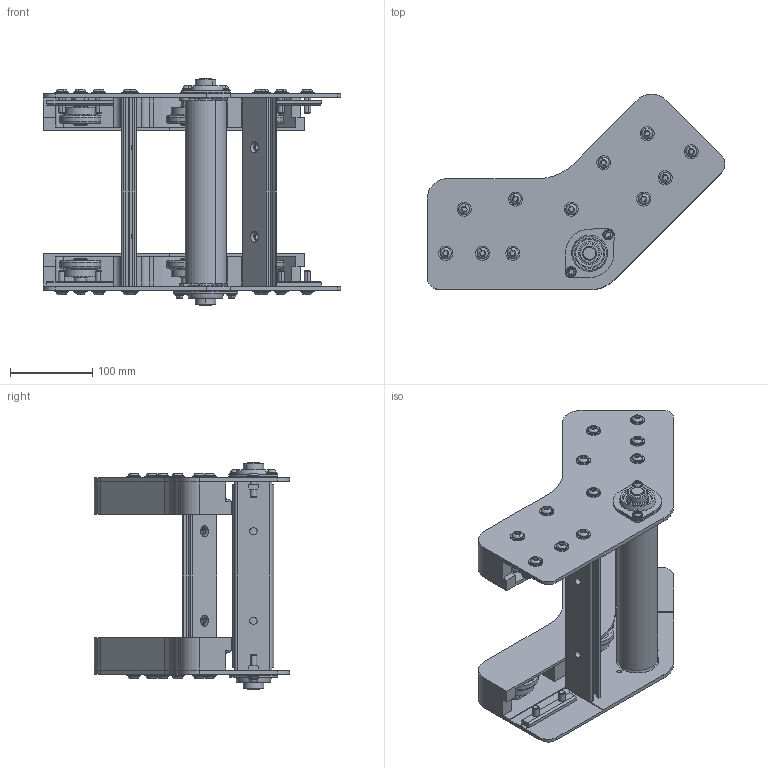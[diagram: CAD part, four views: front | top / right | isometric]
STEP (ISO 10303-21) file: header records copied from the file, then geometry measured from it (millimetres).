
FILE_DESCRIPTION (( 'STEP AP203' ), '1' );
FILE_NAME ('084.050.KA.45.200.STEP', '2019-09-12T09:26:06', ( 'Localadmin' ), ( 'Microsoft' ), 'SwSTEP 2.0', 'SolidWorks 2018', '' );
FILE_SCHEMA (( 'CONFIG_CONTROL_DESIGN' ));
Length unit declared in the file: millimetre
Products named in the file (18): 084.830.102_Default<A macchina>; 084.050.KA.45.200; SBPFL 203; 084.830.101_Default<A macchina>; VITI TESTA BOMBATA ISO 730 INOX_M8x30 ISO 7380 INOX; 084.050.KA.45.200.001_Default<A macchina>; VITI TESTA BOMBATA ISO 730 INOX_M8x25 ISO 7380 INOX; 084.050.KA.45.200.002_Default<A macchina>; RONDELLE UNI 6592_8.4x17 UNI 6592; 084.821.103; VITI TESTA BOMBATA ISO 730 INOX_M6x10 ISO 7380 INOX; 084.821.105; RONDELLE UNI 6592_6.4x12.5 UNI 6592; 084.302.016; Circlip DIN 471 - 15 x 1_Circlip DIN 471 - 15 x 1; 084.811.004; 084.821.102; CUSCINETTI A SFERE_6002-2Z
Assembly tree (109 placements, depth 2):
  084.050.KA.45.200
    084.830.102_Default<A macchina>  x2
    084.830.101_Default<A macchina>  x2
    084.050.KA.45.200.001_Default<A macchina>
    084.050.KA.45.200.002_Default<A macchina>  x2
    084.821.103  x6
    084.821.105  x6
    084.302.016  x4
    084.811.004  x2
    CUSCINETTI A SFERE_6002-2Z  x12
    SBPFL 203  x2
    VITI TESTA BOMBATA ISO 730 INOX_M8x30 ISO 7380 INOX  x10
    VITI TESTA BOMBATA ISO 730 INOX_M8x25 ISO 7380 INOX  x12
    RONDELLE UNI 6592_8.4x17 UNI 6592  x22
    VITI TESTA BOMBATA ISO 730 INOX_M6x10 ISO 7380 INOX  x4
    RONDELLE UNI 6592_6.4x12.5 UNI 6592  x4
    Circlip DIN 471 - 15 x 1_Circlip DIN 471 - 15 x 1  x12
    084.821.102  x6
Bounding box: 362.33 x 237.69 x 277 mm (x, y, z)
Volume: 1791716.8 mm3; surface area: 780045 mm2
Topology: 113 solids, 113 shells, 2195 faces, 5161 edges, 3336 vertices
Faces by surface type: cylinder 915, plane 888, cone 192, torus 180, sphere 20
Entity records: 21544 total; most frequent: DIRECTION 3220, CARTESIAN_POINT 3170, ORIENTED_EDGE 2716, EDGE_CURVE 1358, AXIS2_PLACEMENT_3D 1234, VERTEX_POINT 888, LINE 752, VECTOR 752
